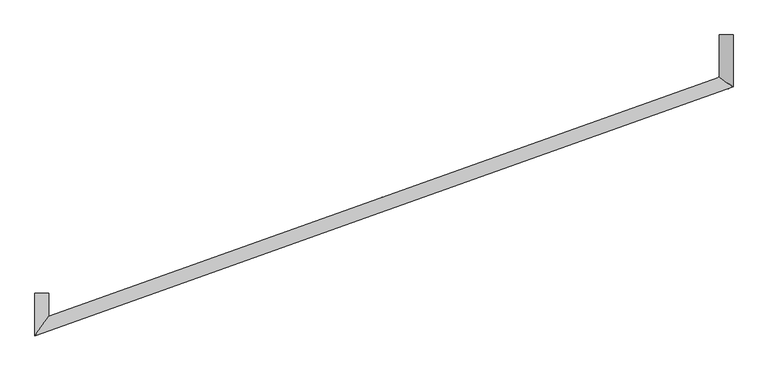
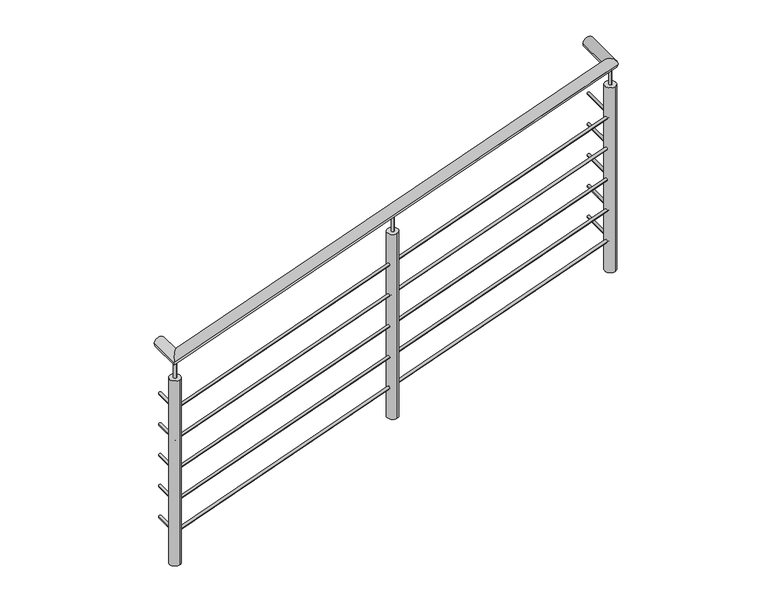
"""IFC4 building model written with IfcOpenShell, lengths in millimetres: railing geometry, Barandal general 2 sin inicio."""

from ifc_helpers import new_model, si_unit, point, frame, frame_2d, origin, place, context, project, spatial, circle_curve, ellipse_curve, trimmed, segment, composite_curve, outline, extrude, source, transform, mapped, element, save
from ifc_brep_helpers import plane_surface, cylinder_surface, advanced_brep


def railing_b0b55876(model_context):
    return source(origin(), model_context, "Body", "SolidModel", [
        advanced_brep(
        [(39004.1057586, 22857.0021633, 4000.0), (39054.9057586, 22857.0021633, 4000.0), (39054.9057586, 22665.5335359, 4000.0), (39004.1057586, 22701.3598947, 4000.0), (36484.1300226, 21749.4284497, 4000.0), (36534.9300226, 21821.4603302, 4000.0), (36534.9300226, 21905.5468038, 4000.0), (36484.1300226, 21905.5468038, 4000.0)],
        [
            (0, 1, circle_curve(frame((39029.5057586, 22857.0021633, 4000.0), z_axis=(0.0, 1.0, 0.0), x_axis=(1.0, 0.0, 0.0)), 25.4)),
            (1, 0, circle_curve(frame((39029.5057586, 22857.0021633, 4000.0), z_axis=(0.0, 1.0, 0.0), x_axis=(1.0, 0.0, 0.0)), 25.4)),
            (1, 2),
            (2, 3, ellipse_curve(frame((39029.5057586, 22683.4467153, 4000.0), z_axis=(0.5763345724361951, 0.8172138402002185, 0.0), x_axis=(-0.8172138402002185, 0.576334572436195, 0.0)), 31.0812161, 25.4)),
            (3, 0),
            (3, 2, ellipse_curve(frame((39029.5057586, 22683.4467153, 4000.0), z_axis=(0.5763345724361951, 0.8172138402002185, 0.0), x_axis=(-0.8172138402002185, 0.576334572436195, 0.0)), 31.0812161, 25.4)),
            (2, 4),
            (4, 5, ellipse_curve(frame((36509.5300226, 21785.4443899, 4000.0), z_axis=(0.8172138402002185, -0.576334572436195, 0.0), x_axis=(0.576334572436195, 0.8172138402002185, 0.0)), 44.071623, 25.4)),
            (5, 3),
            (5, 4, ellipse_curve(frame((36509.5300226, 21785.4443899, 4000.0), z_axis=(0.8172138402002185, -0.576334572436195, 0.0), x_axis=(0.576334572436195, 0.8172138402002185, 0.0)), 44.071623, 25.4)),
            (6, 7, circle_curve(frame((36509.5300226, 21905.5468038, 4000.0), z_axis=(0.0, 1.0, 0.0), x_axis=(-1.0, 0.0, 0.0)), 25.4)),
            (7, 6, circle_curve(frame((36509.5300226, 21905.5468038, 4000.0), z_axis=(0.0, 1.0, 0.0), x_axis=(-1.0, 0.0, 0.0)), 25.4)),
            (4, 7),
            (6, 5),
        ],
        [
            plane_surface(frame((39029.5057586, 22857.0021633, 4000.0), z_axis=(0.0, 1.0, 0.0), x_axis=(0.0, 0.0, -1.0))),
            cylinder_surface(frame((39029.5057586, 22857.0021633, 4000.0), z_axis=(0.0, 1.0, 0.0), x_axis=(1.0, 0.0, 0.0)), 25.4),
            cylinder_surface(frame((39029.5057586, 22683.4467153, 4000.0), z_axis=(0.941977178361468, 0.33567692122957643, 0.0), x_axis=(0.33567692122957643, -0.941977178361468, 0.0)), 25.4),
            plane_surface(frame((36509.5300226, 21905.5468038, 4000.0), z_axis=(0.0, 1.0, 0.0), x_axis=(0.0, 0.0, 1.0))),
            cylinder_surface(frame((36509.5300226, 21785.4443899, 4000.0), z_axis=(0.0, -1.0, 0.0), x_axis=(-1.0, 0.0, 0.0)), 25.4),
        ],
        [
            (0, [[1, 2]]),
            (1, [[-2, 3, 4, 5]]),
            (1, [[-1, -5, 6, -3]]),
            (2, [[-4, 7, 8, 9]]),
            (2, [[-6, -9, 10, -7]]),
            (3, [[11, 12]]),
            (4, [[-8, 13, -11, 14]]),
            (4, [[-10, -14, -12, -13]]),
        ],
    ),
        advanced_brep(
        [(39023.1557586, 22857.0021633, 3750.0), (39035.8557586, 22857.0021633, 3750.0), (39035.8557586, 22678.9684205, 3750.0), (39023.1557586, 22687.9250102, 3750.0), (36503.1800226, 21776.4404049, 3750.0), (36515.8800226, 21794.448375, 3750.0), (36515.8800226, 21905.5468038, 3750.0), (36503.1800226, 21905.5468038, 3750.0)],
        [
            (0, 1, circle_curve(frame((39029.5057586, 22857.0021633, 3750.0), z_axis=(0.0, 1.0, 0.0), x_axis=(1.0, 0.0, 0.0)), 6.35)),
            (1, 0, circle_curve(frame((39029.5057586, 22857.0021633, 3750.0), z_axis=(0.0, 1.0, 0.0), x_axis=(1.0, 0.0, 0.0)), 6.35)),
            (1, 2),
            (2, 3, ellipse_curve(frame((39029.5057586, 22683.4467153, 3750.0), z_axis=(0.5763345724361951, 0.8172138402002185, 0.0), x_axis=(-0.8172138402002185, 0.576334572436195, 0.0)), 7.770304, 6.35)),
            (3, 0),
            (3, 2, ellipse_curve(frame((39029.5057586, 22683.4467153, 3750.0), z_axis=(0.5763345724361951, 0.8172138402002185, 0.0), x_axis=(-0.8172138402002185, 0.576334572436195, 0.0)), 7.770304, 6.35)),
            (2, 4),
            (4, 5, ellipse_curve(frame((36509.5300226, 21785.4443899, 3750.0), z_axis=(0.8172138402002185, -0.576334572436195, 0.0), x_axis=(0.576334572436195, 0.8172138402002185, 0.0)), 11.0179058, 6.35)),
            (5, 3),
            (5, 4, ellipse_curve(frame((36509.5300226, 21785.4443899, 3750.0), z_axis=(0.8172138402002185, -0.576334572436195, 0.0), x_axis=(0.576334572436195, 0.8172138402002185, 0.0)), 11.0179058, 6.35)),
            (6, 7, circle_curve(frame((36509.5300226, 21905.5468038, 3750.0), z_axis=(0.0, 1.0, 0.0), x_axis=(-1.0, 0.0, 0.0)), 6.35)),
            (7, 6, circle_curve(frame((36509.5300226, 21905.5468038, 3750.0), z_axis=(0.0, 1.0, 0.0), x_axis=(-1.0, 0.0, 0.0)), 6.35)),
            (4, 7),
            (6, 5),
        ],
        [
            plane_surface(frame((39029.5057586, 22857.0021633, 3750.0), z_axis=(0.0, 1.0, 0.0), x_axis=(0.0, 0.0, -1.0))),
            cylinder_surface(frame((39029.5057586, 22857.0021633, 3750.0), z_axis=(0.0, 1.0, 0.0), x_axis=(1.0, 0.0, 0.0)), 6.35),
            cylinder_surface(frame((39029.5057586, 22683.4467153, 3750.0), z_axis=(0.941977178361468, 0.33567692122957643, 0.0), x_axis=(0.33567692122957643, -0.941977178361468, 0.0)), 6.35),
            plane_surface(frame((36509.5300226, 21905.5468038, 3750.0), z_axis=(0.0, 1.0, 0.0), x_axis=(0.0, 0.0, 1.0))),
            cylinder_surface(frame((36509.5300226, 21785.4443899, 3750.0), z_axis=(0.0, -1.0, 0.0), x_axis=(-1.0, 0.0, 0.0)), 6.35),
        ],
        [
            (0, [[1, 2]]),
            (1, [[-2, 3, 4, 5]]),
            (1, [[-1, -5, 6, -3]]),
            (2, [[-4, 7, 8, 9]]),
            (2, [[-6, -9, 10, -7]]),
            (3, [[11, 12]]),
            (4, [[-8, 13, -11, 14]]),
            (4, [[-10, -14, -12, -13]]),
        ],
    ),
        advanced_brep(
        [(39023.1557586, 22857.0021633, 3600.0), (39035.8557586, 22857.0021633, 3600.0), (39035.8557586, 22678.9684205, 3600.0), (39023.1557586, 22687.9250102, 3600.0), (36503.1800226, 21776.4404049, 3600.0), (36515.8800226, 21794.448375, 3600.0), (36515.8800226, 21905.5468038, 3600.0), (36503.1800226, 21905.5468038, 3600.0)],
        [
            (0, 1, circle_curve(frame((39029.5057586, 22857.0021633, 3600.0), z_axis=(0.0, 1.0, 0.0), x_axis=(1.0, 0.0, 0.0)), 6.35)),
            (1, 0, circle_curve(frame((39029.5057586, 22857.0021633, 3600.0), z_axis=(0.0, 1.0, 0.0), x_axis=(1.0, 0.0, 0.0)), 6.35)),
            (1, 2),
            (2, 3, ellipse_curve(frame((39029.5057586, 22683.4467153, 3600.0), z_axis=(0.5763345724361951, 0.8172138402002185, 0.0), x_axis=(-0.8172138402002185, 0.576334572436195, 0.0)), 7.770304, 6.35)),
            (3, 0),
            (3, 2, ellipse_curve(frame((39029.5057586, 22683.4467153, 3600.0), z_axis=(0.5763345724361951, 0.8172138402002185, 0.0), x_axis=(-0.8172138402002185, 0.576334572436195, 0.0)), 7.770304, 6.35)),
            (2, 4),
            (4, 5, ellipse_curve(frame((36509.5300226, 21785.4443899, 3600.0), z_axis=(0.8172138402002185, -0.576334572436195, 0.0), x_axis=(0.576334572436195, 0.8172138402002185, 0.0)), 11.0179058, 6.35)),
            (5, 3),
            (5, 4, ellipse_curve(frame((36509.5300226, 21785.4443899, 3600.0), z_axis=(0.8172138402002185, -0.576334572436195, 0.0), x_axis=(0.576334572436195, 0.8172138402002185, 0.0)), 11.0179058, 6.35)),
            (6, 7, circle_curve(frame((36509.5300226, 21905.5468038, 3600.0), z_axis=(0.0, 1.0, 0.0), x_axis=(-1.0, 0.0, 0.0)), 6.35)),
            (7, 6, circle_curve(frame((36509.5300226, 21905.5468038, 3600.0), z_axis=(0.0, 1.0, 0.0), x_axis=(-1.0, 0.0, 0.0)), 6.35)),
            (4, 7),
            (6, 5),
        ],
        [
            plane_surface(frame((39029.5057586, 22857.0021633, 3600.0), z_axis=(0.0, 1.0, 0.0), x_axis=(0.0, 0.0, -1.0))),
            cylinder_surface(frame((39029.5057586, 22857.0021633, 3600.0), z_axis=(0.0, 1.0, 0.0), x_axis=(1.0, 0.0, 0.0)), 6.35),
            cylinder_surface(frame((39029.5057586, 22683.4467153, 3600.0), z_axis=(0.941977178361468, 0.33567692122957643, 0.0), x_axis=(0.33567692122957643, -0.941977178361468, 0.0)), 6.35),
            plane_surface(frame((36509.5300226, 21905.5468038, 3600.0), z_axis=(0.0, 1.0, 0.0), x_axis=(0.0, 0.0, 1.0))),
            cylinder_surface(frame((36509.5300226, 21785.4443899, 3600.0), z_axis=(0.0, -1.0, 0.0), x_axis=(-1.0, 0.0, 0.0)), 6.35),
        ],
        [
            (0, [[1, 2]]),
            (1, [[-2, 3, 4, 5]]),
            (1, [[-1, -5, 6, -3]]),
            (2, [[-4, 7, 8, 9]]),
            (2, [[-6, -9, 10, -7]]),
            (3, [[11, 12]]),
            (4, [[-8, 13, -11, 14]]),
            (4, [[-10, -14, -12, -13]]),
        ],
    ),
        advanced_brep(
        [(39023.1557586, 22857.0021633, 3450.0), (39035.8557586, 22857.0021633, 3450.0), (39035.8557586, 22678.9684205, 3450.0), (39023.1557586, 22687.9250102, 3450.0), (36503.1800226, 21776.4404049, 3450.0), (36515.8800226, 21794.448375, 3450.0), (36515.8800226, 21905.5468038, 3450.0), (36503.1800226, 21905.5468038, 3450.0)],
        [
            (0, 1, circle_curve(frame((39029.5057586, 22857.0021633, 3450.0), z_axis=(0.0, 1.0, 0.0), x_axis=(1.0, 0.0, 0.0)), 6.35)),
            (1, 0, circle_curve(frame((39029.5057586, 22857.0021633, 3450.0), z_axis=(0.0, 1.0, 0.0), x_axis=(1.0, 0.0, 0.0)), 6.35)),
            (1, 2),
            (2, 3, ellipse_curve(frame((39029.5057586, 22683.4467153, 3450.0), z_axis=(0.5763345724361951, 0.8172138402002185, 0.0), x_axis=(-0.8172138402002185, 0.576334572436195, 0.0)), 7.770304, 6.35)),
            (3, 0),
            (3, 2, ellipse_curve(frame((39029.5057586, 22683.4467153, 3450.0), z_axis=(0.5763345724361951, 0.8172138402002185, 0.0), x_axis=(-0.8172138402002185, 0.576334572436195, 0.0)), 7.770304, 6.35)),
            (2, 4),
            (4, 5, ellipse_curve(frame((36509.5300226, 21785.4443899, 3450.0), z_axis=(0.8172138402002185, -0.576334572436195, 0.0), x_axis=(0.576334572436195, 0.8172138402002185, 0.0)), 11.0179058, 6.35)),
            (5, 3),
            (5, 4, ellipse_curve(frame((36509.5300226, 21785.4443899, 3450.0), z_axis=(0.8172138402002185, -0.576334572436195, 0.0), x_axis=(0.576334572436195, 0.8172138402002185, 0.0)), 11.0179058, 6.35)),
            (6, 7, circle_curve(frame((36509.5300226, 21905.5468038, 3450.0), z_axis=(0.0, 1.0, 0.0), x_axis=(-1.0, 0.0, 0.0)), 6.35)),
            (7, 6, circle_curve(frame((36509.5300226, 21905.5468038, 3450.0), z_axis=(0.0, 1.0, 0.0), x_axis=(-1.0, 0.0, 0.0)), 6.35)),
            (4, 7),
            (6, 5),
        ],
        [
            plane_surface(frame((39029.5057586, 22857.0021633, 3450.0), z_axis=(0.0, 1.0, 0.0), x_axis=(0.0, 0.0, -1.0))),
            cylinder_surface(frame((39029.5057586, 22857.0021633, 3450.0), z_axis=(0.0, 1.0, 0.0), x_axis=(1.0, 0.0, 0.0)), 6.35),
            cylinder_surface(frame((39029.5057586, 22683.4467153, 3450.0), z_axis=(0.941977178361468, 0.33567692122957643, 0.0), x_axis=(0.33567692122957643, -0.941977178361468, 0.0)), 6.35),
            plane_surface(frame((36509.5300226, 21905.5468038, 3450.0), z_axis=(0.0, 1.0, 0.0), x_axis=(0.0, 0.0, 1.0))),
            cylinder_surface(frame((36509.5300226, 21785.4443899, 3450.0), z_axis=(0.0, -1.0, 0.0), x_axis=(-1.0, 0.0, 0.0)), 6.35),
        ],
        [
            (0, [[1, 2]]),
            (1, [[-2, 3, 4, 5]]),
            (1, [[-1, -5, 6, -3]]),
            (2, [[-4, 7, 8, 9]]),
            (2, [[-6, -9, 10, -7]]),
            (3, [[11, 12]]),
            (4, [[-8, 13, -11, 14]]),
            (4, [[-10, -14, -12, -13]]),
        ],
    ),
        advanced_brep(
        [(39023.1557586, 22857.0021633, 3300.0), (39035.8557586, 22857.0021633, 3300.0), (39035.8557586, 22678.9684205, 3300.0), (39023.1557586, 22687.9250102, 3300.0), (36503.1800226, 21776.4404049, 3300.0), (36515.8800226, 21794.448375, 3300.0), (36515.8800226, 21905.5468038, 3300.0), (36503.1800226, 21905.5468038, 3300.0)],
        [
            (0, 1, circle_curve(frame((39029.5057586, 22857.0021633, 3300.0), z_axis=(0.0, 1.0, 0.0), x_axis=(1.0, 0.0, 0.0)), 6.35)),
            (1, 0, circle_curve(frame((39029.5057586, 22857.0021633, 3300.0), z_axis=(0.0, 1.0, 0.0), x_axis=(1.0, 0.0, 0.0)), 6.35)),
            (1, 2),
            (2, 3, ellipse_curve(frame((39029.5057586, 22683.4467153, 3300.0), z_axis=(0.5763345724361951, 0.8172138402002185, 0.0), x_axis=(-0.8172138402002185, 0.576334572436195, 0.0)), 7.770304, 6.35)),
            (3, 0),
            (3, 2, ellipse_curve(frame((39029.5057586, 22683.4467153, 3300.0), z_axis=(0.5763345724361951, 0.8172138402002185, 0.0), x_axis=(-0.8172138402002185, 0.576334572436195, 0.0)), 7.770304, 6.35)),
            (2, 4),
            (4, 5, ellipse_curve(frame((36509.5300226, 21785.4443899, 3300.0), z_axis=(0.8172138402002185, -0.576334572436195, 0.0), x_axis=(0.576334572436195, 0.8172138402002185, 0.0)), 11.0179058, 6.35)),
            (5, 3),
            (5, 4, ellipse_curve(frame((36509.5300226, 21785.4443899, 3300.0), z_axis=(0.8172138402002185, -0.576334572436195, 0.0), x_axis=(0.576334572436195, 0.8172138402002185, 0.0)), 11.0179058, 6.35)),
            (6, 7, circle_curve(frame((36509.5300226, 21905.5468038, 3300.0), z_axis=(0.0, 1.0, 0.0), x_axis=(-1.0, 0.0, 0.0)), 6.35)),
            (7, 6, circle_curve(frame((36509.5300226, 21905.5468038, 3300.0), z_axis=(0.0, 1.0, 0.0), x_axis=(-1.0, 0.0, 0.0)), 6.35)),
            (4, 7),
            (6, 5),
        ],
        [
            plane_surface(frame((39029.5057586, 22857.0021633, 3300.0), z_axis=(0.0, 1.0, 0.0), x_axis=(0.0, 0.0, -1.0))),
            cylinder_surface(frame((39029.5057586, 22857.0021633, 3300.0), z_axis=(0.0, 1.0, 0.0), x_axis=(1.0, 0.0, 0.0)), 6.35),
            cylinder_surface(frame((39029.5057586, 22683.4467153, 3300.0), z_axis=(0.941977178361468, 0.33567692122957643, 0.0), x_axis=(0.33567692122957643, -0.941977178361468, 0.0)), 6.35),
            plane_surface(frame((36509.5300226, 21905.5468038, 3300.0), z_axis=(0.0, 1.0, 0.0), x_axis=(0.0, 0.0, 1.0))),
            cylinder_surface(frame((36509.5300226, 21785.4443899, 3300.0), z_axis=(0.0, -1.0, 0.0), x_axis=(-1.0, 0.0, 0.0)), 6.35),
        ],
        [
            (0, [[1, 2]]),
            (1, [[-2, 3, 4, 5]]),
            (1, [[-1, -5, 6, -3]]),
            (2, [[-4, 7, 8, 9]]),
            (2, [[-6, -9, 10, -7]]),
            (3, [[11, 12]]),
            (4, [[-8, 13, -11, 14]]),
            (4, [[-10, -14, -12, -13]]),
        ],
    ),
        advanced_brep(
        [(39023.1557586, 22857.0021633, 3150.0), (39035.8557586, 22857.0021633, 3150.0), (39035.8557586, 22678.9684205, 3150.0), (39023.1557586, 22687.9250102, 3150.0), (36503.1800226, 21776.4404049, 3150.0), (36515.8800226, 21794.448375, 3150.0), (36515.8800226, 21905.5468038, 3150.0), (36503.1800226, 21905.5468038, 3150.0)],
        [
            (0, 1, circle_curve(frame((39029.5057586, 22857.0021633, 3150.0), z_axis=(0.0, 1.0, 0.0), x_axis=(1.0, 0.0, 0.0)), 6.35)),
            (1, 0, circle_curve(frame((39029.5057586, 22857.0021633, 3150.0), z_axis=(0.0, 1.0, 0.0), x_axis=(1.0, 0.0, 0.0)), 6.35)),
            (1, 2),
            (2, 3, ellipse_curve(frame((39029.5057586, 22683.4467153, 3150.0), z_axis=(0.5763345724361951, 0.8172138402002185, 0.0), x_axis=(-0.8172138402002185, 0.576334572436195, 0.0)), 7.770304, 6.35)),
            (3, 0),
            (3, 2, ellipse_curve(frame((39029.5057586, 22683.4467153, 3150.0), z_axis=(0.5763345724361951, 0.8172138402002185, 0.0), x_axis=(-0.8172138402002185, 0.576334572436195, 0.0)), 7.770304, 6.35)),
            (2, 4),
            (4, 5, ellipse_curve(frame((36509.5300226, 21785.4443899, 3150.0), z_axis=(0.8172138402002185, -0.576334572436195, 0.0), x_axis=(0.576334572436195, 0.8172138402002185, 0.0)), 11.0179058, 6.35)),
            (5, 3),
            (5, 4, ellipse_curve(frame((36509.5300226, 21785.4443899, 3150.0), z_axis=(0.8172138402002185, -0.576334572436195, 0.0), x_axis=(0.576334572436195, 0.8172138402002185, 0.0)), 11.0179058, 6.35)),
            (6, 7, circle_curve(frame((36509.5300226, 21905.5468038, 3150.0), z_axis=(0.0, 1.0, 0.0), x_axis=(-1.0, 0.0, 0.0)), 6.35)),
            (7, 6, circle_curve(frame((36509.5300226, 21905.5468038, 3150.0), z_axis=(0.0, 1.0, 0.0), x_axis=(-1.0, 0.0, 0.0)), 6.35)),
            (4, 7),
            (6, 5),
        ],
        [
            plane_surface(frame((39029.5057586, 22857.0021633, 3150.0), z_axis=(0.0, 1.0, 0.0), x_axis=(0.0, 0.0, -1.0))),
            cylinder_surface(frame((39029.5057586, 22857.0021633, 3150.0), z_axis=(0.0, 1.0, 0.0), x_axis=(1.0, 0.0, 0.0)), 6.35),
            cylinder_surface(frame((39029.5057586, 22683.4467153, 3150.0), z_axis=(0.941977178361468, 0.33567692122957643, 0.0), x_axis=(0.33567692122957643, -0.941977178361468, 0.0)), 6.35),
            plane_surface(frame((36509.5300226, 21905.5468038, 3150.0), z_axis=(0.0, 1.0, 0.0), x_axis=(0.0, 0.0, 1.0))),
            cylinder_surface(frame((36509.5300226, 21785.4443899, 3150.0), z_axis=(0.0, -1.0, 0.0), x_axis=(-1.0, 0.0, 0.0)), 6.35),
        ],
        [
            (0, [[1, 2]]),
            (1, [[-2, 3, 4, 5]]),
            (1, [[-1, -5, 6, -3]]),
            (2, [[-4, 7, 8, 9]]),
            (2, [[-6, -9, 10, -7]]),
            (3, [[11, 12]]),
            (4, [[-8, 13, -11, 14]]),
            (4, [[-10, -14, -12, -13]]),
        ],
    ),
        extrude(outline(composite_curve([segment(trimmed(circle_curve(frame_2d((36509.5300226, 21785.4443899)), 6.35), [point((36511.661571, 21779.4628349))], [point((36507.3984741, 21791.425945))], False, "CARTESIAN"), True, "CONTINUOUS"), segment(trimmed(circle_curve(frame_2d((36509.5300226, 21785.4443899)), 6.35), [point((36507.3984741, 21791.425945))], [point((36511.661571, 21779.4628349))], False, "CARTESIAN"), True, "CONTINUOUS")], self_intersect=False)), frame((0.0, 0.0, 3899.6), z_axis=(0.0, 0.0, 1.0), x_axis=(1.0, 0.0, 0.0)), (0.0, 0.0, 1.0), 75.0),
        extrude(outline(composite_curve([segment(trimmed(circle_curve(frame_2d((36509.5300226, 21785.4443899)), 25.4), [point((36518.0562164, 21761.5181696))], [point((36501.0038288, 21809.3706103))], False, "CARTESIAN"), True, "CONTINUOUS"), segment(trimmed(circle_curve(frame_2d((36509.5300226, 21785.4443899)), 25.4), [point((36501.0038288, 21809.3706103))], [point((36518.0562164, 21761.5181696))], False, "CARTESIAN"), True, "CONTINUOUS")], self_intersect=False)), frame((0.0, 0.0, 3000.0), z_axis=(0.0, 0.0, 1.0), x_axis=(1.0, 0.0, 0.0)), (0.0, 0.0, 1.0), 899.6),
        extrude(outline(composite_curve([segment(trimmed(circle_curve(frame_2d((37769.5178906, 22234.4455526)), 6.35), [point((37771.649439, 22228.4639976))], [point((37767.3863421, 22240.4271077))], False, "CARTESIAN"), True, "CONTINUOUS"), segment(trimmed(circle_curve(frame_2d((37769.5178906, 22234.4455526)), 6.35), [point((37767.3863421, 22240.4271077))], [point((37771.649439, 22228.4639976))], False, "CARTESIAN"), True, "CONTINUOUS")], self_intersect=False)), frame((0.0, 0.0, 3899.6), z_axis=(0.0, 0.0, 1.0), x_axis=(1.0, 0.0, 0.0)), (0.0, 0.0, 1.0), 75.0),
        extrude(outline(composite_curve([segment(trimmed(circle_curve(frame_2d((37769.5178906, 22234.4455526)), 25.4), [point((37778.0440844, 22210.5193323))], [point((37760.9916968, 22258.371773))], False, "CARTESIAN"), True, "CONTINUOUS"), segment(trimmed(circle_curve(frame_2d((37769.5178906, 22234.4455526)), 25.4), [point((37760.9916968, 22258.371773))], [point((37778.0440844, 22210.5193323))], False, "CARTESIAN"), True, "CONTINUOUS")], self_intersect=False)), frame((0.0, 0.0, 3000.0), z_axis=(0.0, 0.0, 1.0), x_axis=(1.0, 0.0, 0.0)), (0.0, 0.0, 1.0), 899.6),
        extrude(outline(composite_curve([segment(trimmed(circle_curve(frame_2d((39029.5057586, 22683.4467153)), 6.35), [point((39031.637307, 22677.4651603))], [point((39027.3742101, 22689.4282704))], False, "CARTESIAN"), True, "CONTINUOUS"), segment(trimmed(circle_curve(frame_2d((39029.5057586, 22683.4467153)), 6.35), [point((39027.3742101, 22689.4282704))], [point((39031.637307, 22677.4651603))], False, "CARTESIAN"), True, "CONTINUOUS")], self_intersect=False)), frame((0.0, 0.0, 3899.6), z_axis=(0.0, 0.0, 1.0), x_axis=(1.0, 0.0, 0.0)), (0.0, 0.0, 1.0), 75.0),
        extrude(outline(composite_curve([segment(trimmed(circle_curve(frame_2d((39029.5057586, 22683.4467153)), 25.4), [point((39038.0319524, 22659.520495))], [point((39020.9795648, 22707.3729357))], False, "CARTESIAN"), True, "CONTINUOUS"), segment(trimmed(circle_curve(frame_2d((39029.5057586, 22683.4467153)), 25.4), [point((39020.9795648, 22707.3729357))], [point((39038.0319524, 22659.520495))], False, "CARTESIAN"), True, "CONTINUOUS")], self_intersect=False)), frame((0.0, 0.0, 3000.0), z_axis=(0.0, 0.0, 1.0), x_axis=(1.0, 0.0, 0.0)), (0.0, 0.0, 1.0), 899.6),
    ])


if __name__ == "__main__":
    model = new_model("IFC4")
    model_context = context("Model", 3, world=origin())
    ifc_project = project(units=[si_unit("LENGTHUNIT", "METRE", prefix="MILLI")], contexts=[model_context])
    site = spatial("IfcSite", under=ifc_project)
    building = spatial("IfcBuilding", under=site)
    placement = place(None, origin())
    railing_shape = railing_b0b55876(model_context)
    element("IfcRailing", 1, ObjectType="Barandal general 2 sin inicio", at=placement, inside=building, context=model_context, shape_type="MappedRepresentation", body=[
        mapped(railing_shape, transform((0.0, 0.0, 0.0), x_axis=(1.0, 0.0, 0.0), y_axis=(0.0, 1.0, 0.0), z_axis=(0.0, 0.0, 1.0))),
    ])
    save(model, "model.ifc")
